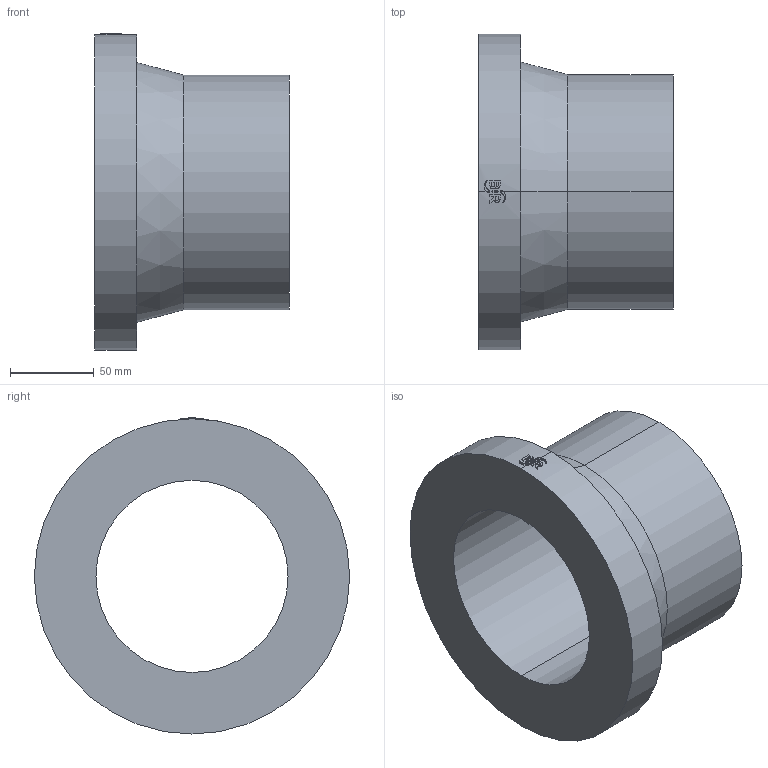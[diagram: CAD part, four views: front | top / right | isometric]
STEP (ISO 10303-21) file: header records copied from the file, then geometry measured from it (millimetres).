
FILE_DESCRIPTION (( 'STEP AP214' ), '1' );
FILE_NAME ('233516F015.STEP', '2018-07-20T10:56:16', ( '' ), ( '' ), 'SwSTEP 2.0', 'SolidWorks 2017', '' );
FILE_SCHEMA (( 'AUTOMOTIVE_DESIGN' ));
Length unit declared in the file: millimetre
Products named in the file (1): 233516F015
Bounding box: 116 x 188 x 188.5 mm (x, y, z)
Volume: 946163.5 mm3; surface area: 129140 mm2
Topology: 1 solids, 1 shells, 60 faces, 154 edges, 102 vertices
Faces by surface type: cylinder 29, plane 29, cone 2
Entity records: 2861 total; most frequent: CARTESIAN_POINT 744, ORIENTED_EDGE 308, DIRECTION 282, EDGE_CURVE 154, AXIS2_PLACEMENT_3D 107, VERTEX_POINT 102, LINE 68, EDGE_LOOP 68
